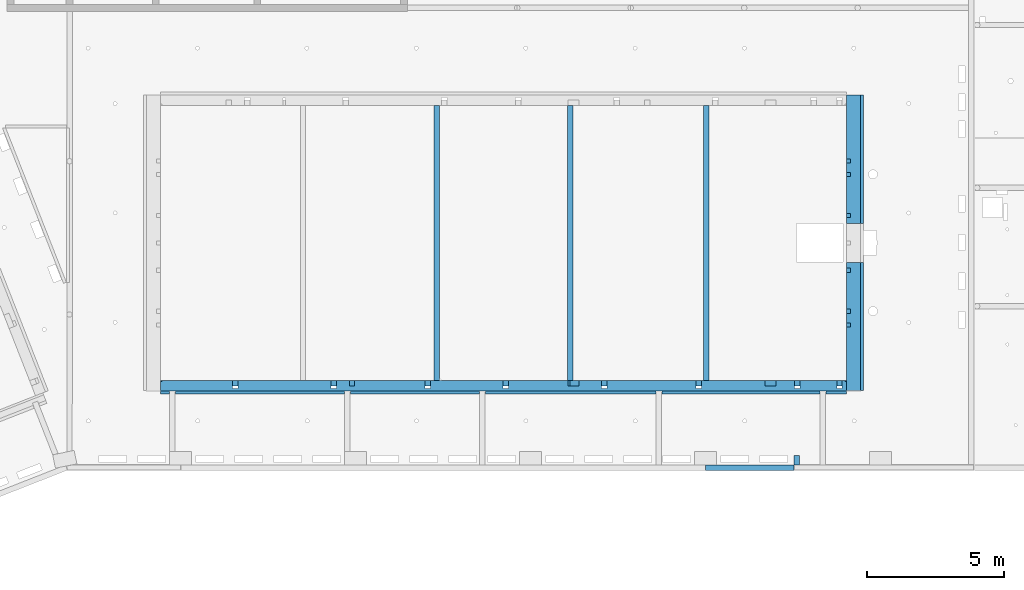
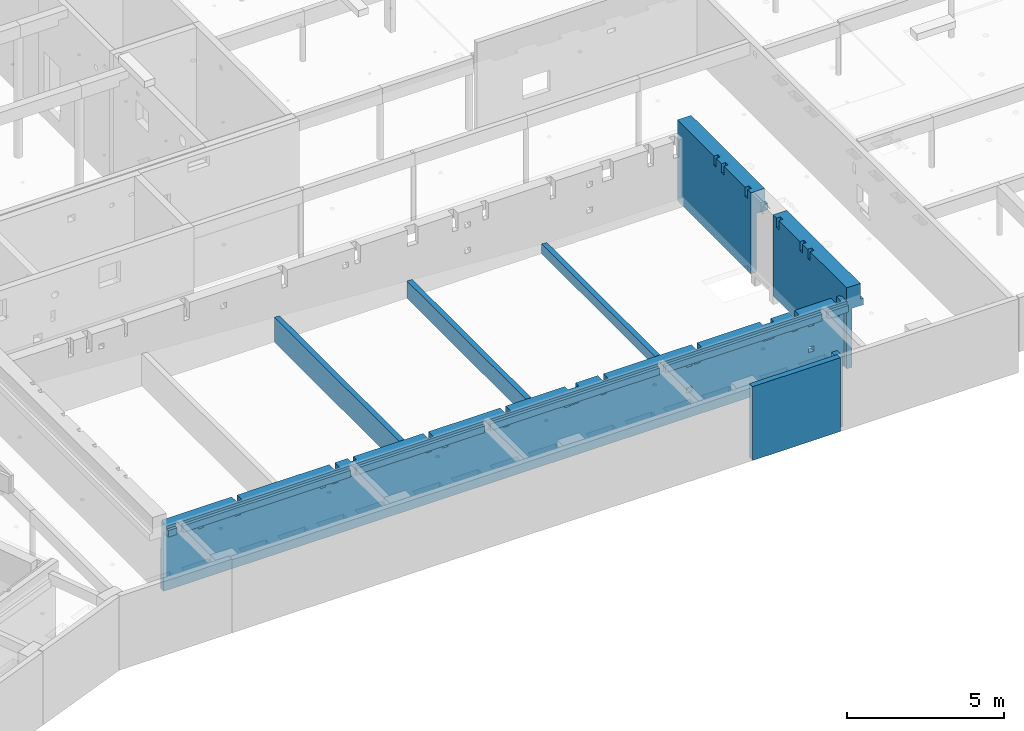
# One storey, part 19 of 28: 7 walls, 33 openings.
"""IFC2X3 building model written with IfcOpenShell, lengths in metres."""

from ifc_helpers import new_model, entity, si_unit, converted_unit, direction, frame, frame_2d, origin, origin_with_axes, place, context, subcontext, project, spatial, polyline, rectangle, outline, extrude, clip, halfspace, bounded_halfspace, material, layer, layer_set, layer_usage, element, save


model = new_model("IFC2X3")

# Units and contexts
model_context = context("Model", 3, precision=1e-05, world=origin(), true_north=direction((-0.407059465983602, -0.913401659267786)))
body_context = subcontext(model_context, "Body", "Model", "MODEL_VIEW")
ifc_project = project(units=[si_unit("LENGTHUNIT", "METRE"), si_unit("AREAUNIT", "SQUARE_METRE"), si_unit("VOLUMEUNIT", "CUBIC_METRE"), si_unit("MASSUNIT", "GRAM", prefix="KILO"), converted_unit("PLANEANGLEUNIT", "DEGREE", entity("IfcPlaneAngleMeasure", 0.0174532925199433), si_unit("PLANEANGLEUNIT", "RADIAN"), dimensions=[0, 0, 0, 0, 0, 0, 0])], contexts=[model_context])

# Site, buildings, storey
site_placement = place(None, origin())
site = spatial("IfcSite", under=ifc_project, at=site_placement, Name="Site", CompositionType="ELEMENT")
building_1_placement = place(site_placement, origin())
building_1 = spatial("IfcBuilding", under=site, at=building_1_placement, Name="Site", CompositionType="COMPLEX")
building_2_placement = place(building_1_placement, origin())
building_2 = spatial("IfcBuilding", under=building_1, at=building_2_placement, Name="Bâtiments", CompositionType="ELEMENT")
storey_placement = place(building_2_placement, frame((0.0, 0.0, -5.3)))
storey = spatial("IfcBuildingStorey", under=building_2, at=storey_placement, Name="SOUS-SOL", CompositionType="ELEMENT", Elevation=-5.3)

# Walls
ifc_material_1 = material(Name="Béton")
ifc_layer_1 = layer(ifc_material_1, 0.199999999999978)
ifc_layer_set_1 = layer_set([ifc_layer_1])
ifc_layer_usage_1 = layer_usage(ifc_layer_set_1, "AXIS2", "POSITIVE", -0.199999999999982)
wall_1_placement = place(storey_placement, frame((43.6693842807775, -12.2993058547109, 2.4), z_axis=(0.0, 0.0, 1.0), x_axis=(0.0, -1.0, 0.0)))
element("IfcWallStandardCase", 1, at=wall_1_placement, inside=storey, material=ifc_layer_usage_1, context=body_context, shape_type="Clipping", body=[
    clip(extrude(rectangle(XDim=10.05, YDim=0.199999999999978, at=frame_2d((5.025, 0.0999999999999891), x_axis=(1.0, 0.0))), origin_with_axes(), (0.0, 0.0, 1.0), 0.973236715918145), halfspace(frame((5.025, 0.0999999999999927, 0.967236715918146), z_axis=(0.0, -0.0598922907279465, -0.998204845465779), x_axis=(0.0, -0.998204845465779, 0.0598922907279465)), True)),
])
ifc_material_2 = material(Name="Béton")
ifc_layer_2 = layer(ifc_material_2, 0.199999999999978)
ifc_layer_set_2 = layer_set([ifc_layer_2])
ifc_layer_usage_2 = layer_usage(ifc_layer_set_2, "AXIS2", "POSITIVE", -0.199999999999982)
wall_2_placement = place(storey_placement, frame((48.5573842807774, -12.2993058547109, 2.4), z_axis=(0.0, 0.0, 1.0), x_axis=(0.0, -1.0, 0.0)))
element("IfcWallStandardCase", 2, at=wall_2_placement, inside=storey, material=ifc_layer_usage_2, context=body_context, shape_type="Clipping", body=[
    clip(extrude(rectangle(XDim=10.05, YDim=0.199999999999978, at=frame_2d((5.025, 0.0999999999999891), x_axis=(1.0, 0.0))), origin_with_axes(), (0.0, 0.0, 1.0), 0.679956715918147), halfspace(frame((5.025, 0.0999999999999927, 0.673956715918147), z_axis=(0.0, -0.0598922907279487, -0.998204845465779), x_axis=(0.0, -0.998204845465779, 0.0598922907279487)), True)),
])
ifc_material_3 = material(Name="Béton")
ifc_layer_3 = layer(ifc_material_3, 0.199999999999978)
ifc_layer_set_3 = layer_set([ifc_layer_3])
ifc_layer_usage_3 = layer_usage(ifc_layer_set_3, "AXIS2", "POSITIVE", -0.199999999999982)
wall_3_placement = place(storey_placement, frame((53.5233295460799, -12.2993058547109, 2.4), z_axis=(0.0, 0.0, 1.0), x_axis=(0.0, -1.0, 0.0)))
element("IfcWallStandardCase", 3, at=wall_3_placement, inside=storey, material=ifc_layer_usage_3, context=body_context, shape_type="Clipping", body=[
    clip(extrude(rectangle(XDim=10.05, YDim=0.199999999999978, at=frame_2d((5.025, 0.0999999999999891), x_axis=(1.0, 0.0))), origin_with_axes(), (0.0, 0.0, 1.0), 0.382), halfspace(frame((5.025, 0.0999999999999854, 0.376), z_axis=(0.0, -0.0598922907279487, -0.998204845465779), x_axis=(0.0, 0.998204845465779, -0.0598922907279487)), True)),
])
ifc_material_4 = material(Name="Béton")
ifc_layer_4 = layer(ifc_material_4, 0.200000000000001)
ifc_layer_set_4 = layer_set([ifc_layer_4])
ifc_layer_usage_4 = layer_usage(ifc_layer_set_4, "AXIS2", "POSITIVE", -0.200000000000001)
wall_4_placement = place(storey_placement, frame((57.0359864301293, -25.4449220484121, 2.4), z_axis=(0.0, 0.0, 1.0), x_axis=(-6.37625915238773e-05, 0.999999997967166, 0.0)))
element("IfcWallStandardCase", 4, at=wall_4_placement, inside=storey, material=ifc_layer_usage_4, context=body_context, shape_type="SweptSolid", body=[
    extrude(outline(polyline([(-1.275395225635e-05, -0.200022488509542), (0.352691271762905, -0.200022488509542), (0.352691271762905, -2.24885095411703e-05), (-1.43392565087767e-09, -2.24885095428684e-05), (-1.275395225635e-05, -0.200022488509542)])), frame((1.275395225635e-05, 0.200022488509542, 0.0), z_axis=(0.0, 0.0, 1.0), x_axis=(1.0, 0.0, 0.0)), (0.0, 0.0, 1.0), 2.76),
])
ifc_material_5 = material(Name="Béton")
ifc_layer_5 = layer(ifc_material_5, 0.2)
ifc_layer_set_5 = layer_set([ifc_layer_5])
ifc_layer_usage_5 = layer_usage(ifc_layer_set_5, "AXIS2", "POSITIVE", -0.200000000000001)
wall_5_placement = place(storey_placement, frame((56.8359864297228, -25.4449220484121, 2.4), z_axis=(0.0, 0.0, 1.0), x_axis=(-1.0, 0.0, 0.0)))
element("IfcWallStandardCase", 5, at=wall_5_placement, inside=storey, material=ifc_layer_usage_5, context=body_context, shape_type="SweptSolid", body=[
    extrude(outline(polyline([(-3.23101478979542, -0.2), (-4.59005241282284e-07, -0.2), (0.0, 0.0), (-3.23102754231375, 0.0), (-3.23101478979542, -0.2)])), frame((3.23101478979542, 0.2, 0.0), z_axis=(0.0, 0.0, 1.0), x_axis=(1.0, 0.0, 0.0)), (0.0, 0.0, 1.0), 2.88),
])

# Wall, openings
ifc_material_6 = material(Name="Béton")
ifc_layer_6 = layer(ifc_material_6, 0.199999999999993)
ifc_material_7 = material(Name="Béton")
ifc_layer_7 = layer(ifc_material_7, 0.189999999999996)
ifc_material_8 = material(Name="Béton")
ifc_layer_8 = layer(ifc_material_8, 0.110000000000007)
ifc_layer_set_6 = layer_set([ifc_layer_6, ifc_layer_7, ifc_layer_8])
ifc_layer_usage_6 = layer_usage(ifc_layer_set_6, "AXIS2", "POSITIVE", 0.0)
wall_6_placement = place(storey_placement, frame((58.7533842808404, -22.3493058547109, 2.4), z_axis=(0.0, 0.0, 1.0), x_axis=(-1.0, 2.90109952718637e-16, 0.0)))
wall_6 = element("IfcWallStandardCase", 6, at=wall_6_placement, inside=storey, material=ifc_layer_usage_6, context=body_context, shape_type="Clipping", body=[
    clip(clip(clip(clip(clip(clip(clip(extrude(rectangle(XDim=25.08, YDim=0.499999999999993, at=frame_2d((12.54, 0.249999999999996), x_axis=(1.0, 0.0))), origin_with_axes(), (0.0, 0.0, 1.0), 2.65), bounded_halfspace(frame((12.54, 0.349999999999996, 2.29), z_axis=(2.26648400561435e-18, 9.473903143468e-16, 1.0), x_axis=(1.0, 0.0, -4.53296801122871e-18)), True, origin_with_axes(), polyline([(-5.80219905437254e-17, 0.199999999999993), (25.08, 0.199999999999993), (25.08, 0.499999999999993), (-1.45054976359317e-16, 0.499999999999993), (-5.80219905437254e-17, 0.199999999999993)]))), bounded_halfspace(frame((24.6449373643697, 0.44999991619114, 2.36), z_axis=(0.0, 0.0, -1.0), x_axis=(-1.0, -2.90109952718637e-16, 0.0)), True, origin_with_axes(), polyline([(24.7449371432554, 0.499999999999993), (24.544937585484, 0.499999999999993), (24.544937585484, 0.399999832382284), (24.7449371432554, 0.399999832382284), (24.7449371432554, 0.499999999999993)]))), bounded_halfspace(frame((18.2461229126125, 0.449999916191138, 2.36), z_axis=(0.0, 0.0, -1.0), x_axis=(-1.0, -2.90109952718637e-16, 0.0)), True, origin_with_axes(), polyline([(18.3461226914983, 0.499999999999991), (18.1461231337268, 0.499999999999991), (18.1461231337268, 0.399999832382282), (18.3461226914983, 0.399999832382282), (18.3461226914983, 0.499999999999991)]))), bounded_halfspace(frame((13.3095692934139, 0.449999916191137, 2.36), z_axis=(0.0, 0.0, -1.0), x_axis=(-1.0, -2.90109952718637e-16, 0.0)), True, origin_with_axes(), polyline([(13.4095690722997, 0.499999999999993), (13.2095695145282, 0.499999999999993), (13.2095695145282, 0.39999983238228), (13.4095690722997, 0.39999983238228), (13.4095690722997, 0.499999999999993)]))), bounded_halfspace(frame((6.85999985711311, 0.449999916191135, 2.36), z_axis=(0.0, 0.0, -1.0), x_axis=(-1.0, -2.90109952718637e-16, 0.0)), True, origin_with_axes(), polyline([(6.95999963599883, 0.499999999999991), (6.76000007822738, 0.499999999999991), (6.76000007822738, 0.399999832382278), (6.95999963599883, 0.399999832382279), (6.95999963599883, 0.499999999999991)]))), bounded_halfspace(frame((0.859999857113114, 0.449999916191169, 2.36), z_axis=(0.0, 0.0, -1.0), x_axis=(-1.0, -2.90109952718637e-16, 0.0)), True, origin_with_axes(), polyline([(0.959999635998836, 0.499999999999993), (0.760000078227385, 0.499999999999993), (0.760000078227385, 0.399999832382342), (0.959999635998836, 0.399999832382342), (0.959999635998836, 0.499999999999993)]))), bounded_halfspace(frame((12.7434382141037, 0.449166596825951, 2.55), z_axis=(0.0, 0.0, -1.0), x_axis=(2.90109952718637e-16, -1.0, 0.0)), True, origin_with_axes(), polyline([(24.7449371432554, 0.499999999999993), (24.7449371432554, 0.399999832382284), (24.544937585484, 0.399999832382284), (24.5449375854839, 0.499999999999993), (18.3461226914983, 0.499999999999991), (18.3461226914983, 0.399999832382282), (18.1461231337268, 0.399999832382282), (18.1461231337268, 0.499999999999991), (13.4095690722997, 0.499999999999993), (13.4095690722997, 0.39999983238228), (13.2095695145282, 0.39999983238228), (13.2095695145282, 0.499999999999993), (6.95999963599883, 0.499999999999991), (6.95999963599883, 0.399999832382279), (6.76000007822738, 0.399999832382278), (6.76000007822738, 0.499999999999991), (0.959999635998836, 0.499999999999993), (0.959999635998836, 0.399999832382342), (0.760000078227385, 0.399999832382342), (0.760000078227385, 0.499999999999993), (-1.45054976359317e-16, 0.499999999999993), (-1.13142881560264e-16, 0.389999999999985), (25.08, 0.389999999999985), (25.08, 0.499999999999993), (24.7449371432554, 0.499999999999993)]))),
])
opening_1_placement = place(wall_6_placement, frame((0.15499999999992, 4.49670426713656e-17, 2.0), z_axis=(-2.8421709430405e-16, 1.0, 0.0), x_axis=(0.0, 0.0, 1.0)))
element("IfcOpeningElement", 7, at=opening_1_placement, cuts=wall_6, Name="Percement dans mur", ObjectType="Opening", context=body_context, shape_type="SweptSolid", body=[
    extrude(outline(polyline([(0.0, 0.2), (0.65, 0.2), (0.65, 0.0), (0.0, 0.0), (0.0, 0.2)])), origin_with_axes(), (0.0, 0.0, 1.0), 0.199999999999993),
    extrude(outline(polyline([(0.0, 0.2), (0.65, 0.2), (0.65, 0.0), (0.0, 0.0), (0.0, 0.2)])), frame((0.0, 0.0, 0.199999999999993), z_axis=(0.0, 0.0, 1.0), x_axis=(1.0, 0.0, 0.0)), (0.0, 0.0, 1.0), 0.100000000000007),
])
opening_2_placement = place(wall_6_placement, frame((1.10499999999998, 3.20571497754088e-16, 0.98), z_axis=(0.0, 1.0, 0.0), x_axis=(0.0, 0.0, 1.0)))
element("IfcOpeningElement", 8, at=opening_2_placement, cuts=wall_6, Name="Percement dans mur", ObjectType="Opening", context=body_context, shape_type="SweptSolid", body=[
    extrude(outline(polyline([(0.0, 0.2), (0.2, 0.2), (0.2, 0.0), (0.0, 0.0), (0.0, 0.2)])), origin_with_axes(), (0.0, 0.0, 1.0), 0.199999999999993),
])
opening_3_placement = place(wall_6_placement, frame((1.10499999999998, 3.20571497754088e-16, 1.98), z_axis=(0.0, 1.0, 0.0), x_axis=(0.0, 0.0, 1.0)))
element("IfcOpeningElement", 9, at=opening_3_placement, cuts=wall_6, Name="Percement dans mur", ObjectType="Opening", context=body_context, shape_type="SweptSolid", body=[
    extrude(outline(polyline([(0.0, 0.2), (0.2, 0.2), (0.2, 0.0), (0.0, 0.0), (0.0, 0.2)])), origin_with_axes(), (0.0, 0.0, 1.0), 0.199999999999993),
])
opening_4_placement = place(wall_6_placement, frame((1.70499999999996, 4.94637469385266e-16, 2.0), z_axis=(0.0, 1.0, 0.0), x_axis=(0.0, 0.0, 1.0)))
element("IfcOpeningElement", 10, at=opening_4_placement, cuts=wall_6, Name="Percement dans mur", ObjectType="Opening", context=body_context, shape_type="SweptSolid", body=[
    extrude(outline(polyline([(0.0, 0.2), (0.65, 0.2), (0.65, 0.0), (0.0, 0.0), (0.0, 0.2)])), origin_with_axes(), (0.0, 0.0, 1.0), 0.199999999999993),
    extrude(outline(polyline([(0.0, 0.2), (0.65, 0.2), (0.65, 0.0), (0.0, 0.0), (0.0, 0.2)])), frame((0.0, 0.0, 0.199999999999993), z_axis=(0.0, 0.0, 1.0), x_axis=(1.0, 0.0, 0.0)), (0.0, 0.0, 1.0), 0.100000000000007),
])
opening_5_placement = place(wall_6_placement, frame((2.57999999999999, 7.4848367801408e-16, 2.0), z_axis=(0.0, 1.0, 0.0), x_axis=(0.0, 0.0, 1.0)))
element("IfcOpeningElement", 11, at=opening_5_placement, cuts=wall_6, Name="Percement dans mur", ObjectType="Opening", context=body_context, shape_type="SweptSolid", body=[
    extrude(outline(polyline([(0.0, 0.4), (0.65, 0.4), (0.65, 0.0), (0.0, 0.0), (0.0, 0.4)])), origin_with_axes(), (0.0, 0.0, 1.0), 0.199999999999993),
])
opening_6_placement = place(wall_6_placement, frame((5.30499999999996, 1.53903329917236e-15, 2.0), z_axis=(0.0, 1.0, 0.0), x_axis=(0.0, 0.0, 1.0)))
element("IfcOpeningElement", 12, at=opening_6_placement, cuts=wall_6, Name="Percement dans mur", ObjectType="Opening", context=body_context, shape_type="SweptSolid", body=[
    extrude(outline(polyline([(0.0, 0.2), (0.65, 0.2), (0.65, 0.0), (0.0, 0.0), (0.0, 0.2)])), origin_with_axes(), (0.0, 0.0, 1.0), 0.199999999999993),
    extrude(outline(polyline([(0.0, 0.2), (0.65, 0.2), (0.65, 0.0), (0.0, 0.0), (0.0, 0.2)])), frame((0.0, 0.0, 0.199999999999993), z_axis=(0.0, 0.0, 1.0), x_axis=(1.0, 0.0, 0.0)), (0.0, 0.0, 1.0), 0.100000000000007),
])
opening_7_placement = place(wall_6_placement, frame((8.75499999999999, -1.09806617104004e-15, 2.0), z_axis=(0.0, 1.0, 0.0), x_axis=(0.0, 0.0, 1.0)))
element("IfcOpeningElement", 13, at=opening_7_placement, cuts=wall_6, Name="Percement dans mur", ObjectType="Opening", context=body_context, shape_type="SweptSolid", body=[
    extrude(outline(polyline([(0.0, 0.2), (0.65, 0.2), (0.65, 0.0), (0.0, 0.0), (0.0, 0.2)])), origin_with_axes(), (0.0, 0.0, 1.0), 0.199999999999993),
    extrude(outline(polyline([(0.0, 0.2), (0.65, 0.2), (0.65, 0.0), (0.0, 0.0), (0.0, 0.2)])), frame((0.0, 0.0, 0.199999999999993), z_axis=(0.0, 0.0, 1.0), x_axis=(1.0, 0.0, 0.0)), (0.0, 0.0, 1.0), 0.100000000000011),
])
opening_8_placement = place(wall_6_placement, frame((12.355, -5.36703412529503e-17, 2.0), z_axis=(0.0, 1.0, 0.0), x_axis=(0.0, 0.0, 1.0)))
element("IfcOpeningElement", 14, at=opening_8_placement, cuts=wall_6, Name="Percement dans mur", ObjectType="Opening", context=body_context, shape_type="SweptSolid", body=[
    extrude(outline(polyline([(0.0, 0.2), (0.65, 0.2), (0.65, 0.0), (0.0, 0.0), (0.0, 0.2)])), origin_with_axes(), (0.0, 0.0, 1.0), 0.199999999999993),
    extrude(outline(polyline([(0.0, 0.2), (0.65, 0.2), (0.65, 0.0), (0.0, 0.0), (0.0, 0.2)])), frame((0.0, 0.0, 0.199999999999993), z_axis=(0.0, 0.0, 1.0), x_axis=(1.0, 0.0, 0.0)), (0.0, 0.0, 1.0), 0.100000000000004),
])
opening_9_placement = place(wall_6_placement, frame((15.2027675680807, 7.7249537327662e-16, 2.0), z_axis=(0.0, 1.0, 0.0), x_axis=(0.0, 0.0, 1.0)))
element("IfcOpeningElement", 15, at=opening_9_placement, cuts=wall_6, Name="Percement dans mur", ObjectType="Opening", context=body_context, shape_type="SweptSolid", body=[
    extrude(outline(polyline([(0.0, 0.2), (0.65, 0.2), (0.65, 0.0), (0.0, 0.0), (0.0, 0.2)])), origin_with_axes(), (0.0, 0.0, 1.0), 0.199999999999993),
    extrude(outline(polyline([(0.0, 0.2), (0.65, 0.2), (0.65, 0.0), (0.0, 0.0), (0.0, 0.2)])), frame((0.0, 0.0, 0.199999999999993), z_axis=(0.0, 0.0, 1.0), x_axis=(1.0, 0.0, 0.0)), (0.0, 0.0, 1.0), 0.100000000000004),
])
opening_10_placement = place(wall_6_placement, frame((18.655, -1.86395644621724e-15, 2.0), z_axis=(0.0, 1.0, 0.0), x_axis=(0.0, 0.0, 1.0)))
element("IfcOpeningElement", 16, at=opening_10_placement, cuts=wall_6, Name="Percement dans mur", ObjectType="Opening", context=body_context, shape_type="SweptSolid", body=[
    extrude(outline(polyline([(0.0, 0.2), (0.65, 0.2), (0.65, 0.0), (0.0, 0.0), (0.0, 0.2)])), origin_with_axes(), (0.0, 0.0, 1.0), 0.199999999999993),
    extrude(outline(polyline([(0.0, 0.2), (0.65, 0.2), (0.65, 0.0), (0.0, 0.0), (0.0, 0.2)])), frame((0.0, 0.0, 0.199999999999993), z_axis=(0.0, 0.0, 1.0), x_axis=(1.0, 0.0, 0.0)), (0.0, 0.0, 1.0), 0.100000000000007),
])
opening_11_placement = place(wall_6_placement, frame((23.605, -3.31697214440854e-14, 1.98), z_axis=(0.0, 1.0, 0.0), x_axis=(0.0, 0.0, 1.0)))
element("IfcOpeningElement", 17, at=opening_11_placement, cuts=wall_6, Name="Percement dans mur", ObjectType="Opening", context=body_context, shape_type="SweptSolid", body=[
    extrude(outline(polyline([(0.0, 0.2), (0.2, 0.2), (0.2, 0.0), (0.0, 0.0), (0.0, 0.2)])), origin_with_axes(), (0.0, 0.0, 1.0), 0.199999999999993),
])
opening_12_placement = place(wall_6_placement, frame((22.2550000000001, -8.19560616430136e-16, 2.0), z_axis=(0.0, 1.0, 0.0), x_axis=(0.0, 0.0, 1.0)))
element("IfcOpeningElement", 18, at=opening_12_placement, cuts=wall_6, Name="Percement dans mur", ObjectType="Opening", context=body_context, shape_type="SweptSolid", body=[
    extrude(outline(polyline([(0.0, 0.2), (0.65, 0.2), (0.65, 0.0), (0.0, 0.0), (0.0, 0.2)])), origin_with_axes(), (0.0, 0.0, 1.0), 0.199999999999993),
    extrude(outline(polyline([(0.0, 0.2), (0.65, 0.2), (0.65, 0.0), (0.0, 0.0), (0.0, 0.2)])), frame((0.0, 0.0, 0.199999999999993), z_axis=(0.0, 0.0, 1.0), x_axis=(1.0, 0.0, 0.0)), (0.0, 0.0, 1.0), 0.100000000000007),
])
opening_13_placement = place(wall_6_placement, frame((5.60499999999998, -2.3839785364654e-14, 1.98), z_axis=(0.0, 1.0, 0.0), x_axis=(0.0, 0.0, 1.0)))
element("IfcOpeningElement", 19, at=opening_13_placement, cuts=wall_6, Name="Percement dans mur", ObjectType="Opening", context=body_context, shape_type="SweptSolid", body=[
    extrude(outline(polyline([(0.0, 0.2), (0.2, 0.2), (0.2, 0.0), (0.0, 0.0), (0.0, 0.2)])), origin_with_axes(), (0.0, 0.0, 1.0), 0.199999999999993),
])
opening_14_placement = place(wall_6_placement, frame((5.60499999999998, -2.3839785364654e-14, 0.98), z_axis=(0.0, 1.0, 0.0), x_axis=(0.0, 0.0, 1.0)))
element("IfcOpeningElement", 20, at=opening_14_placement, cuts=wall_6, Name="Percement dans mur", ObjectType="Opening", context=body_context, shape_type="SweptSolid", body=[
    extrude(outline(polyline([(0.0, 0.2), (0.2, 0.2), (0.2, 0.0), (0.0, 0.0), (0.0, 0.2)])), origin_with_axes(), (0.0, 0.0, 1.0), 0.199999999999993),
])
opening_15_placement = place(wall_6_placement, frame((19.105, -1.99233010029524e-14, 1.98), z_axis=(0.0, 1.0, 0.0), x_axis=(0.0, 0.0, 1.0)))
element("IfcOpeningElement", 21, at=opening_15_placement, cuts=wall_6, Name="Percement dans mur", ObjectType="Opening", context=body_context, shape_type="SweptSolid", body=[
    extrude(outline(polyline([(0.0, 0.2), (0.2, 0.2), (0.2, 0.0), (0.0, 0.0), (0.0, 0.2)])), origin_with_axes(), (0.0, 0.0, 1.0), 0.199999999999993),
])
opening_16_placement = place(wall_6_placement, frame((14.605, -2.12287957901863e-14, 1.98), z_axis=(0.0, 1.0, 0.0), x_axis=(0.0, 0.0, 1.0)))
element("IfcOpeningElement", 22, at=opening_16_placement, cuts=wall_6, Name="Percement dans mur", ObjectType="Opening", context=body_context, shape_type="SweptSolid", body=[
    extrude(outline(polyline([(0.0, 0.2), (0.2, 0.2), (0.2, 0.0), (0.0, 0.0), (0.0, 0.2)])), origin_with_axes(), (0.0, 0.0, 1.0), 0.199999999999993),
])
opening_17_placement = place(wall_6_placement, frame((17.98, 1.5781981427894e-15, 2.06), z_axis=(0.0, 1.0, 0.0), x_axis=(0.0, 0.0, 1.0)))
element("IfcOpeningElement", 23, at=opening_17_placement, cuts=wall_6, Name="Percement dans mur", ObjectType="Opening", context=body_context, shape_type="SweptSolid", body=[
    extrude(outline(polyline([(0.0, 0.2), (0.59, 0.2), (0.59, 0.0), (0.0, 0.0), (0.0, 0.2)])), origin_with_axes(), (0.0, 0.0, 1.0), 0.199999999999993),
])
opening_18_placement = place(wall_6_placement, frame((9.77999999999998, 2.83727533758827e-15, 2.0), z_axis=(0.0, 1.0, 0.0), x_axis=(0.0, 0.0, 1.0)))
element("IfcOpeningElement", 24, at=opening_18_placement, cuts=wall_6, Name="Percement dans mur", ObjectType="Opening", context=body_context, shape_type="SweptSolid", body=[
    extrude(outline(polyline([(0.0, 0.4), (0.65, 0.4), (0.65, 0.0), (0.0, 0.0), (0.0, 0.4)])), origin_with_axes(), (0.0, 0.0, 1.0), 0.199999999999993),
])
opening_19_placement = place(wall_6_placement, frame((10.105, -2.25342905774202e-14, 1.98), z_axis=(0.0, 1.0, 0.0), x_axis=(0.0, 0.0, 1.0)))
element("IfcOpeningElement", 25, at=opening_19_placement, cuts=wall_6, Name="Percement dans mur", ObjectType="Opening", context=body_context, shape_type="SweptSolid", body=[
    extrude(outline(polyline([(0.0, 0.2), (0.2, 0.2), (0.2, 0.0), (0.0, 0.0), (0.0, 0.2)])), origin_with_axes(), (0.0, 0.0, 1.0), 0.199999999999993),
])
opening_20_placement = place(wall_6_placement, frame((25.03, 7.26145211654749e-15, 1.57), z_axis=(0.0, 1.0, 0.0), x_axis=(0.0, 0.0, 1.0)))
element("IfcOpeningElement", 26, at=opening_20_placement, cuts=wall_6, Name="Percement dans mur", ObjectType="Opening", context=body_context, shape_type="SweptSolid", body=[
    extrude(outline(polyline([(0.0, 0.05), (1.08, 0.05), (1.08, 0.0), (0.0, 0.0), (0.0, 0.05)])), origin_with_axes(), (0.0, 0.0, 1.0), 0.05),
])
opening_21_placement = place(wall_6_placement, frame((0.0, 0.0, 0.37), z_axis=(-2.90109952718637e-16, 1.0, 0.0), x_axis=(0.0, 0.0, 1.0)))
element("IfcOpeningElement", 27, at=opening_21_placement, cuts=wall_6, Name="Percement dans mur", ObjectType="Opening", context=body_context, shape_type="SweptSolid", body=[
    extrude(outline(polyline([(0.0, 0.05), (2.28, 0.05), (2.28, 0.0), (0.0, 0.0), (0.0, 0.05)])), origin_with_axes(), (0.0, 0.0, 1.0), 0.05),
])
opening_22_placement = place(wall_6_placement, frame((24.7549373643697, 0.499999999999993, 2.29), z_axis=(0.0, -1.0, 0.0), x_axis=(0.0, 0.0, 1.0)))
element("IfcOpeningElement", 28, at=opening_22_placement, cuts=wall_6, Name="Percement dans mur", ObjectType="Opening", context=body_context, shape_type="SweptSolid", body=[
    extrude(outline(polyline([(0.0, 0.22), (0.47, 0.22), (0.47, 0.0), (0.0, 0.0), (0.0, 0.22)])), origin_with_axes(), (0.0, 0.0, 1.0), 0.110000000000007),
])
opening_23_placement = place(wall_6_placement, frame((18.3561229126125, 0.499999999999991, 2.29), z_axis=(0.0, -1.0, 0.0), x_axis=(0.0, 0.0, 1.0)))
element("IfcOpeningElement", 29, at=opening_23_placement, cuts=wall_6, Name="Percement dans mur", ObjectType="Opening", context=body_context, shape_type="SweptSolid", body=[
    extrude(outline(polyline([(0.0, 0.22), (0.47, 0.22), (0.47, 0.0), (0.0, 0.0), (0.0, 0.22)])), origin_with_axes(), (0.0, 0.0, 1.0), 0.110000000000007),
])
opening_24_placement = place(wall_6_placement, frame((13.4195692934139, 0.499999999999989, 2.29), z_axis=(0.0, -1.0, 0.0), x_axis=(0.0, 0.0, 1.0)))
element("IfcOpeningElement", 30, at=opening_24_placement, cuts=wall_6, Name="Percement dans mur", ObjectType="Opening", context=body_context, shape_type="SweptSolid", body=[
    extrude(outline(polyline([(0.0, 0.22), (0.47, 0.22), (0.47, 0.0), (0.0, 0.0), (0.0, 0.22)])), origin_with_axes(), (0.0, 0.0, 1.0), 0.110000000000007),
])
opening_25_placement = place(wall_6_placement, frame((6.9699998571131, 0.499999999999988, 2.29), z_axis=(0.0, -1.0, 0.0), x_axis=(0.0, 0.0, 1.0)))
element("IfcOpeningElement", 31, at=opening_25_placement, cuts=wall_6, Name="Percement dans mur", ObjectType="Opening", context=body_context, shape_type="SweptSolid", body=[
    extrude(outline(polyline([(0.0, 0.22), (0.47, 0.22), (0.47, 0.0), (0.0, 0.0), (0.0, 0.22)])), origin_with_axes(), (0.0, 0.0, 1.0), 0.110000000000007),
])
opening_26_placement = place(wall_6_placement, frame((0.9699998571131, 0.500000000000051, 2.29), z_axis=(0.0, -1.0, 0.0), x_axis=(0.0, 0.0, 1.0)))
element("IfcOpeningElement", 32, at=opening_26_placement, cuts=wall_6, Name="Percement dans mur", ObjectType="Opening", context=body_context, shape_type="SweptSolid", body=[
    extrude(outline(polyline([(0.0, 0.22), (0.47, 0.22), (0.47, 0.0), (0.0, 0.0), (0.0, 0.22)])), origin_with_axes(), (0.0, 0.0, 1.0), 0.110000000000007),
])

ifc_material_9 = material(Name="Béton")
wall_7_placement = place(storey_placement, frame((58.7533842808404, -11.9193058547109, 2.4), z_axis=(0.0, 0.0, 1.0), x_axis=(0.0, -1.0, 0.0)))
wall_7 = element("IfcWall", 33, at=wall_7_placement, inside=storey, material=ifc_material_9, context=body_context, shape_type="Clipping", body=[
    clip(clip(clip(clip(extrude(rectangle(XDim=0.619999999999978, YDim=4.69999999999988, at=frame_2d((-2.34999999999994, 0.309999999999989), x_axis=(0.0, 1.0))), frame((4.69999999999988, 0.0, 0.0), z_axis=(0.0, 0.0, 1.0), x_axis=(1.0, 0.0, 0.0)), (0.0, 0.0, 1.0), 3.16), bounded_halfspace(frame((2.34999999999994, 0.409999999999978, 2.29), z_axis=(0.0, 0.0, 1.0), x_axis=(1.0, 0.0, 0.0)), True, origin_with_axes(), polyline([(0.0, 0.199999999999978), (4.69999999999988, 0.199999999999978), (4.69999999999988, 0.619999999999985), (0.0, 0.619999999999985), (0.0, 0.199999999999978)]))), bounded_halfspace(frame((8.46182643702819, 0.409999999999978, 2.29), z_axis=(0.0, 0.0, 1.0), x_axis=(-1.0, 0.0, 0.0)), True, origin_with_axes(), polyline([(10.81, 0.619999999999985), (6.11365287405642, 0.619999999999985), (6.11365287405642, 0.199999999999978), (10.81, 0.199999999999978), (10.81, 0.619999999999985)]))), bounded_halfspace(frame((2.34999999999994, 0.564999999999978, 2.55), z_axis=(0.0, 0.0, -1.0), x_axis=(1.0, 0.0, 0.0)), True, origin_with_axes(), polyline([(0.0, 0.509999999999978), (4.69999999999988, 0.509999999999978), (4.69999999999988, 0.619999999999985), (0.0, 0.619999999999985), (0.0, 0.509999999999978)]))), bounded_halfspace(frame((8.46182643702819, 0.564999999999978, 2.55), z_axis=(0.0, 0.0, -1.0), x_axis=(-1.0, 0.0, 0.0)), True, origin_with_axes(), polyline([(10.81, 0.619999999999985), (6.11365287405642, 0.619999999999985), (6.11365287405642, 0.509999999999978), (10.81, 0.509999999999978), (10.81, 0.619999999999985)]))),
    clip(clip(clip(clip(extrude(rectangle(XDim=4.69634712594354, YDim=0.619999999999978, at=frame_2d((-2.34817356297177, -0.309999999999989), x_axis=(-1.0, 0.0))), frame((10.81, 0.619999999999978, 0.0), z_axis=(0.0, 0.0, 1.0), x_axis=(1.0, 0.0, 0.0)), (0.0, 0.0, 1.0), 3.16), bounded_halfspace(frame((2.34999999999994, 0.409999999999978, 2.29), z_axis=(0.0, 0.0, 1.0), x_axis=(1.0, 0.0, 0.0)), True, origin_with_axes(), polyline([(0.0, 0.199999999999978), (4.69999999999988, 0.199999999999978), (4.69999999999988, 0.619999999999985), (0.0, 0.619999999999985), (0.0, 0.199999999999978)]))), bounded_halfspace(frame((8.46182643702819, 0.409999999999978, 2.29), z_axis=(0.0, 0.0, 1.0), x_axis=(-1.0, 0.0, 0.0)), True, origin_with_axes(), polyline([(10.81, 0.619999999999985), (6.11365287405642, 0.619999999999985), (6.11365287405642, 0.199999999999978), (10.81, 0.199999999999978), (10.81, 0.619999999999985)]))), bounded_halfspace(frame((2.34999999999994, 0.564999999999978, 2.55), z_axis=(0.0, 0.0, -1.0), x_axis=(1.0, 0.0, 0.0)), True, origin_with_axes(), polyline([(0.0, 0.509999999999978), (4.69999999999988, 0.509999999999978), (4.69999999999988, 0.619999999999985), (0.0, 0.619999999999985), (0.0, 0.509999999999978)]))), bounded_halfspace(frame((8.46182643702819, 0.564999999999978, 2.55), z_axis=(0.0, 0.0, -1.0), x_axis=(-1.0, 0.0, 0.0)), True, origin_with_axes(), polyline([(10.81, 0.619999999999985), (6.11365287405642, 0.619999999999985), (6.11365287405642, 0.509999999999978), (10.81, 0.509999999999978), (10.81, 0.619999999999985)]))),
])
opening_27_placement = place(wall_7_placement, frame((0.0799999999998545, 0.100000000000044, 3.15), z_axis=(0.0, 0.0, 1.0), x_axis=(0.0, -1.0, 0.0)))
element("IfcOpeningElement", 34, at=opening_27_placement, cuts=wall_7, Name="Percement dans mur", ObjectType="Opening", context=body_context, shape_type="SweptSolid", body=[
    extrude(outline(polyline([(7.27595761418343e-15, 0.0), (0.100000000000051, 0.0), (0.100000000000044, 4.62000000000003), (0.0, 4.62000000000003), (7.27595761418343e-15, 0.0), (0.100000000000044, 10.65), (0.0, 10.65), (0.0, 6.03365287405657), (0.100000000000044, 6.03365287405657), (0.100000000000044, 10.65), (7.27595761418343e-15, 0.0)])), origin_with_axes(), (0.0, 0.0, 1.0), 0.01),
])
opening_28_placement = place(wall_7_placement, frame((8.32999999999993, 0.0, 2.8), z_axis=(0.0, 1.0, 0.0), x_axis=(0.0, 0.0, 1.0)))
element("IfcOpeningElement", 35, at=opening_28_placement, cuts=wall_7, Name="Percement dans mur", ObjectType="Opening", context=body_context, shape_type="SweptSolid", body=[
    extrude(outline(polyline([(0.0, 0.15), (0.36, 0.15), (0.36, 0.0), (0.0, 0.0), (0.0, 0.15)])), origin_with_axes(), (0.0, 0.0, 1.0), 0.15),
])
opening_29_placement = place(wall_7_placement, frame((7.82999999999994, 0.0, 2.8), z_axis=(0.0, 1.0, 0.0), x_axis=(0.0, 0.0, 1.0)))
element("IfcOpeningElement", 36, at=opening_29_placement, cuts=wall_7, Name="Percement dans mur", ObjectType="Opening", context=body_context, shape_type="SweptSolid", body=[
    extrude(outline(polyline([(0.0, 0.15), (0.36, 0.15), (0.36, 0.0), (0.0, 0.0), (0.0, 0.15)])), origin_with_axes(), (0.0, 0.0, 1.0), 0.15),
])
opening_30_placement = place(wall_7_placement, frame((6.32999999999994, 0.0, 2.8), z_axis=(0.0, 1.0, 0.0), x_axis=(0.0, 0.0, 1.0)))
element("IfcOpeningElement", 37, at=opening_30_placement, cuts=wall_7, Name="Percement dans mur", ObjectType="Opening", context=body_context, shape_type="SweptSolid", body=[
    extrude(outline(polyline([(0.0, 0.15), (0.36, 0.15), (0.36, 0.0), (0.0, 0.0), (0.0, 0.15)])), origin_with_axes(), (0.0, 0.0, 1.0), 0.15),
])
opening_31_placement = place(wall_7_placement, frame((4.32999999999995, 0.0, 2.8), z_axis=(0.0, 1.0, 0.0), x_axis=(0.0, 0.0, 1.0)))
element("IfcOpeningElement", 38, at=opening_31_placement, cuts=wall_7, Name="Percement dans mur", ObjectType="Opening", context=body_context, shape_type="SweptSolid", body=[
    extrude(outline(polyline([(0.0, 0.149999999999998), (0.36, 0.149999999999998), (0.36, 0.0), (0.0, 0.0), (0.0, 0.149999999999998)])), origin_with_axes(), (0.0, 0.0, 1.0), 0.15),
])
opening_32_placement = place(wall_7_placement, frame((2.82999999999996, 0.0, 2.8), z_axis=(0.0, 1.0, 0.0), x_axis=(0.0, 0.0, 1.0)))
element("IfcOpeningElement", 39, at=opening_32_placement, cuts=wall_7, Name="Percement dans mur", ObjectType="Opening", context=body_context, shape_type="SweptSolid", body=[
    extrude(outline(polyline([(0.0, 0.15), (0.36, 0.15), (0.36, 0.0), (0.0, 0.0), (0.0, 0.15)])), origin_with_axes(), (0.0, 0.0, 1.0), 0.15),
])
opening_33_placement = place(wall_7_placement, frame((2.32999999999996, 0.0, 2.8), z_axis=(0.0, 1.0, 0.0), x_axis=(0.0, 0.0, 1.0)))
element("IfcOpeningElement", 40, at=opening_33_placement, cuts=wall_7, Name="Percement dans mur", ObjectType="Opening", context=body_context, shape_type="SweptSolid", body=[
    extrude(outline(polyline([(0.0, 0.15), (0.36, 0.15), (0.36, 0.0), (0.0, 0.0), (0.0, 0.15)])), origin_with_axes(), (0.0, 0.0, 1.0), 0.15),
])

save(model, "model.ifc")
